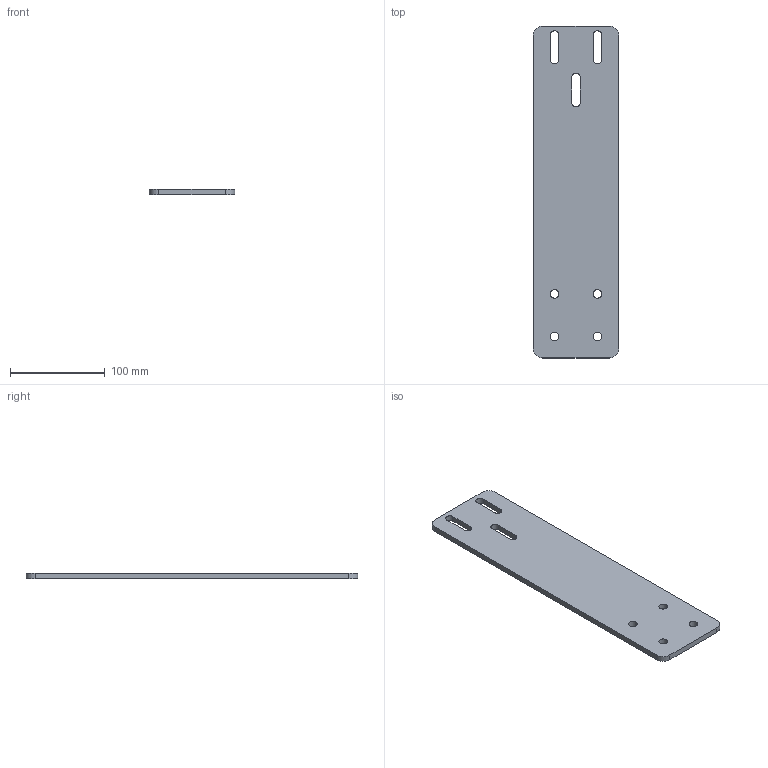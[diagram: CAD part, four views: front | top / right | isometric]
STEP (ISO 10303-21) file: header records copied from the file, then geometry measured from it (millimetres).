
FILE_DESCRIPTION (( 'STEP AP203' ), '1' );
FILE_NAME ('084.709.002.STEP', '2013-01-29T14:07:08', ( 'Alusic' ), ( 'Alusic' ), 'SwSTEP 2.0', 'SolidWorks 2011', '' );
FILE_SCHEMA (( 'CONFIG_CONTROL_DESIGN' ));
Length unit declared in the file: millimetre
Products named in the file (1): 084.709.002
Bounding box: 90 x 350 x 6 mm (x, y, z)
Volume: 181601 mm3; surface area: 67834.2 mm2
Topology: 1 solids, 1 shells, 30 faces, 84 edges, 56 vertices
Faces by surface type: cylinder 18, plane 12
Entity records: 1089 total; most frequent: DIRECTION 182, CARTESIAN_POINT 171, ORIENTED_EDGE 168, EDGE_CURVE 84, AXIS2_PLACEMENT_3D 67, VERTEX_POINT 56, VECTOR 48, LINE 48
